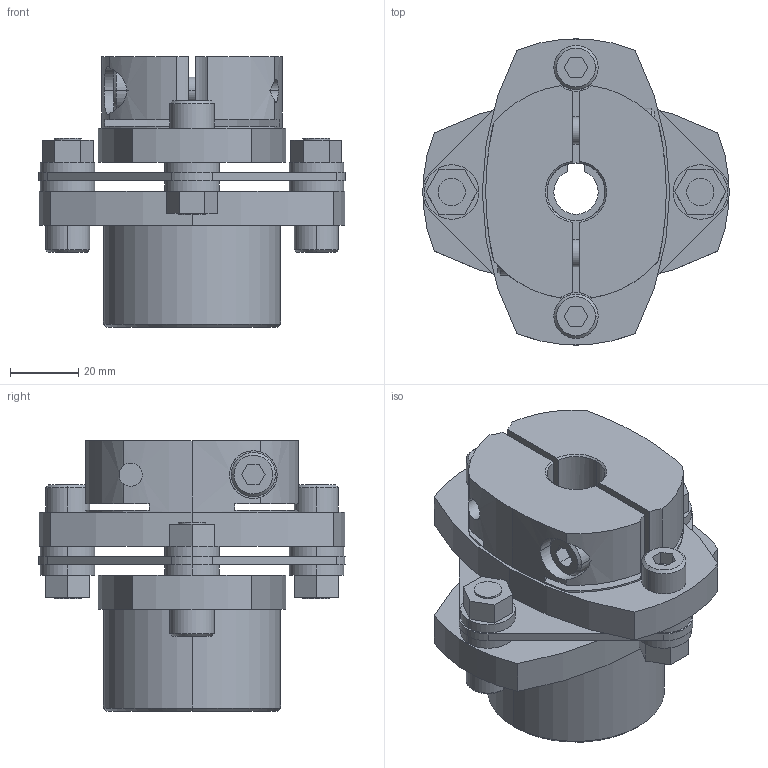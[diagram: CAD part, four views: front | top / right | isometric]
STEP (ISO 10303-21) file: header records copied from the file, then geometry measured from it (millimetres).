
FILE_DESCRIPTION((''),'2;1');
FILE_NAME('LCS-90M-16L亊17B.stp','2015-10-28T04:10:40',(''),(''),'AutoCAD STEP 2000i','AutoCAD 2000i',', , ');
FILE_SCHEMA(('CONFIG_CONTROL_DESIGN'));
Length unit declared in the file: millimetre
Products named in the file (6): LCS-90M-16L×19B; 忣兜1; LC90M-L016; LC90-B019-1; LC90-B019; LCS90-ITA
Assembly tree (5 placements, depth 2):
  LCS-90M-16L×19B
    忣兜1
    LC90M-L016
    LC90-B019-1
    LC90-B019
    LCS90-ITA
Bounding box: 90 x 89.94 x 79.5 mm (x, y, z)
Volume: 202140.6 mm3; surface area: 51256.1 mm2
Topology: 1 solids, 1 shells, 234 faces, 588 edges, 386 vertices
Faces by surface type: plane 115, cylinder 96, cone 23
Entity records: 7529 total; most frequent: CARTESIAN_POINT 1546, DIRECTION 1272, ORIENTED_EDGE 1176, EDGE_CURVE 588, AXIS2_PLACEMENT_3D 466, VERTEX_POINT 386, VECTOR 340, LINE 340
